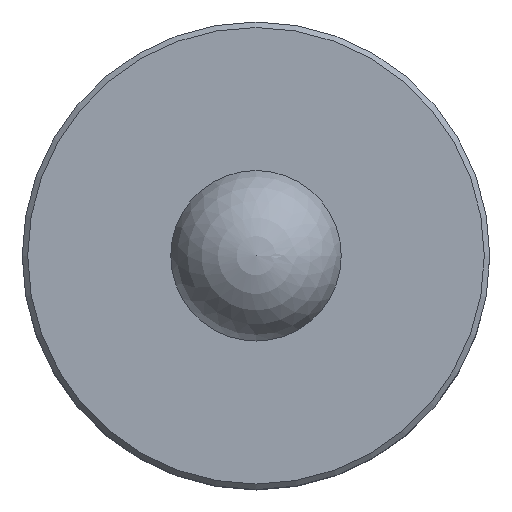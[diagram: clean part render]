
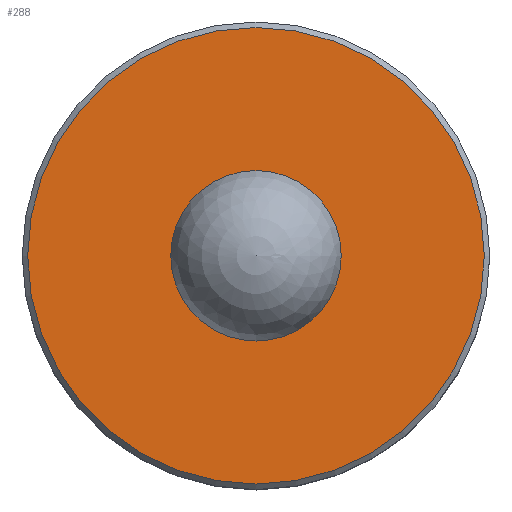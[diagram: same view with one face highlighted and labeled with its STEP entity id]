
A CAD part, top view. The second image highlights one B-rep face of the part: STEP entity #288.
In plain terms, the highlighted planar face has unit normal (0, 0, 1).
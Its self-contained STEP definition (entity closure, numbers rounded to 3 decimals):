
#26=FACE_BOUND('',#106,.T.);
#60=PLANE('',#324);
#76=FACE_OUTER_BOUND('',#105,.T.);
#105=EDGE_LOOP('',(#233));
#106=EDGE_LOOP('',(#234));
#134=CIRCLE('',#323,3.1);
#135=CIRCLE('',#325,8.3);
#158=VERTEX_POINT('',#487);
#159=VERTEX_POINT('',#490);
#186=EDGE_CURVE('',#158,#158,#134,.T.);
#187=EDGE_CURVE('',#159,#159,#135,.T.);
#233=ORIENTED_EDGE('',*,*,#187,.F.);
#234=ORIENTED_EDGE('',*,*,#186,.T.);
#288=ADVANCED_FACE('',(#76,#26),#60,.T.);
#323=AXIS2_PLACEMENT_3D('',#488,#395,#396);
#324=AXIS2_PLACEMENT_3D('',#489,#397,#398);
#325=AXIS2_PLACEMENT_3D('',#491,#399,#400);
#395=DIRECTION('center_axis',(0.,0.,-1.));
#396=DIRECTION('ref_axis',(0.,1.,0.));
#397=DIRECTION('center_axis',(0.,0.,1.));
#398=DIRECTION('ref_axis',(1.,0.,0.));
#399=DIRECTION('center_axis',(0.,0.,-1.));
#400=DIRECTION('ref_axis',(0.,1.,0.));
#487=CARTESIAN_POINT('',(0.,3.1,9.));
#488=CARTESIAN_POINT('Origin',(0.,0.,9.));
#489=CARTESIAN_POINT('Origin',(0.,5.7,9.));
#490=CARTESIAN_POINT('',(0.,8.3,9.));
#491=CARTESIAN_POINT('Origin',(0.,0.,9.));
